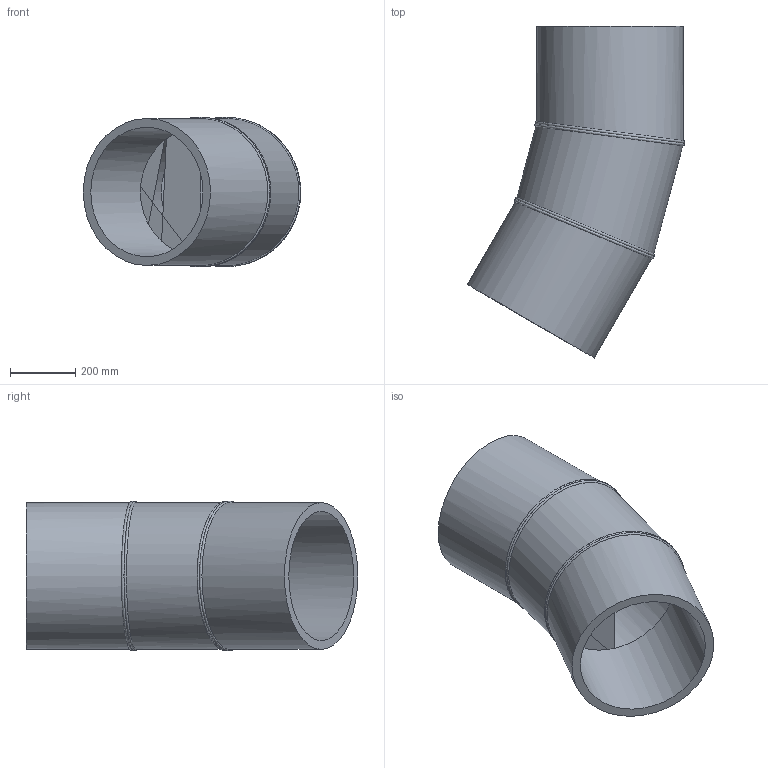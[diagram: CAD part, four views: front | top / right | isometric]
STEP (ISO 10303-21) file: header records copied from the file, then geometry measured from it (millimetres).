
FILE_DESCRIPTION(/* description */ ('Unknown'),/* implementation_level */ '2;1');
FILE_NAME(/* name */ 'Curva 30° a settore DE450 SDR17',/* time_stamp */ '2022-07-26T09:05:48+02:00',/* author */ ('Unknown'),/* organization */ ('Unknown'),/* preprocessor_version */ 'ST-DEVELOPER v18.102',/* originating_system */ 'Solid Edge',/* authorisation */ 'Unknown');
FILE_SCHEMA (('AUTOMOTIVE_DESIGN {1 0 10303 214 3 1 1}'));
Length unit declared in the file: millimetre
Products named in the file (3): Curva 30° a settore DE450 SDR17; Tubo x Gomito 30° DE450 SDR17 - 1; Tubo x Gomito 30° DE450 SDR17 - 2
Assembly tree (3 placements, depth 2):
  Curva 30° a settore DE450 SDR17
    Tubo x Gomito 30° DE450 SDR17 - 1  x2
    Tubo x Gomito 30° DE450 SDR17 - 2
Bounding box: 666.11 x 1016.63 x 458 mm (x, y, z)
Volume: 34181500.2 mm3; surface area: 2790318.6 mm2
Topology: 3 solids, 3 shells, 24 faces, 51 edges, 33 vertices
Faces by surface type: cylinder 14, plane 6, bspline 4
Full cylindrical faces by diameter (mm): 396.6 x3, 450 x3
Entity records: 2406 total; most frequent: CARTESIAN_POINT 2011, DIRECTION 70, ORIENTED_EDGE 52, AXIS2_PLACEMENT_3D 35, EDGE_LOOP 28, FACE_BOUND 28, EDGE_CURVE 26, VERTEX_POINT 20
